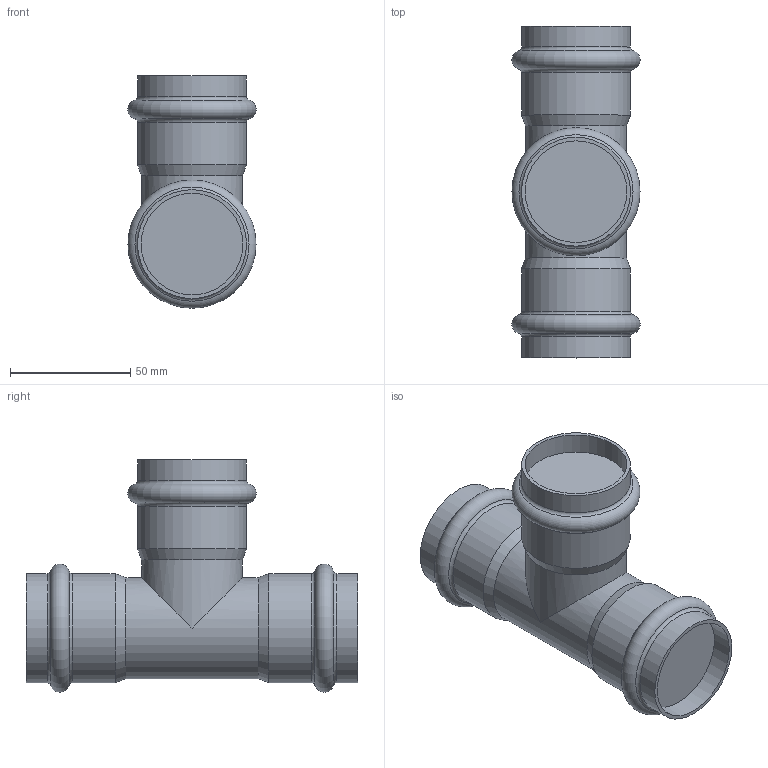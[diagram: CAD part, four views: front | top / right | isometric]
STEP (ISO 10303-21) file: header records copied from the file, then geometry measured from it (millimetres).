
FILE_DESCRIPTION(('STEP AP203'), '1');
FILE_NAME('VTi.931.I.424242', '', ('UNSPECIFIED'), ('UNSPECIFIED'), 'C3D Converter', 'C3D Toolkit', '');
FILE_SCHEMA(('CONFIG_CONTROL_DESIGN'));
Length unit declared in the file: millimetre
Bounding box: 53.28 x 138 x 96.64 mm (x, y, z)
Volume: 265191.9 mm3; surface area: 35734.8 mm2
Topology: 1 solids, 1 shells, 29 faces, 56 edges, 32 vertices
Faces by surface type: cylinder 11, torus 9, plane 6, cone 3
Full cylindrical faces by diameter (mm): 42 x2, 42.3 x3, 45.3 x6
Entity records: 650 total; most frequent: DIRECTION 116, CARTESIAN_POINT 106, ORIENTED_EDGE 64, AXIS2_PLACEMENT_3D 58, EDGE_LOOP 56, FACE_OUTER_BOUND 43, EDGE_CURVE 32, VERTEX_POINT 32
